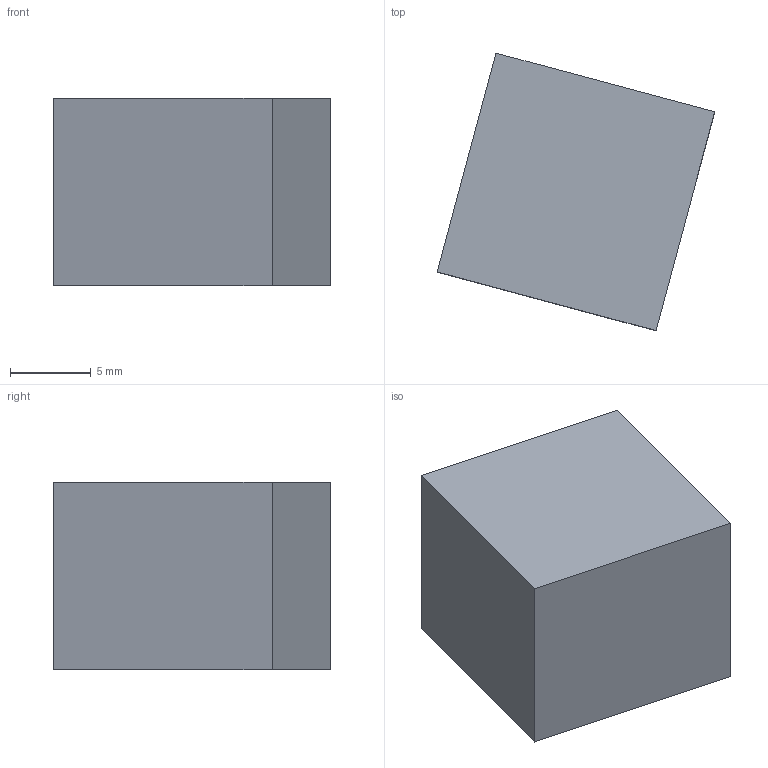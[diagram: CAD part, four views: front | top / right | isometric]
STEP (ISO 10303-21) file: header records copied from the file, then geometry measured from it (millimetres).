
FILE_DESCRIPTION(('Open CASCADE Model'),'2;1');
FILE_NAME('Open CASCADE Shape Model','2026-09-20T16:04:59',('Author'),( 'Open CASCADE'),'Open CASCADE STEP processor 8.0','Open CASCADE 8.0' ,'Unknown');
FILE_SCHEMA(('AP242_MANAGED_MODEL_BASED_3D_ENGINEERING_MIM_LF {1 0 10303 442 1 1 4 }' ));
Length unit declared in the file: millimetre
Products named in the file (1): Open CASCADE STEP translator 8.0 71
Bounding box: 17.15 x 17.15 x 11.6 mm (x, y, z)
Volume: 2273.6 mm3; surface area: 1041.6 mm2
Topology: 1 solids, 1 shells, 6 faces, 12 edges, 8 vertices
Faces by surface type: plane 6
Entity records: 322 total; most frequent: CARTESIAN_POINT 51, DIRECTION 50, LINE 36, VECTOR 36, ORIENTED_EDGE 24, PCURVE 24, DEFINITIONAL_REPRESENTATION 24, EDGE_CURVE 12
